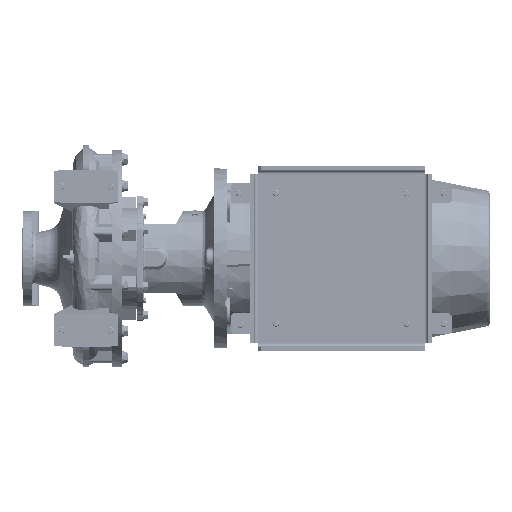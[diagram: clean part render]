
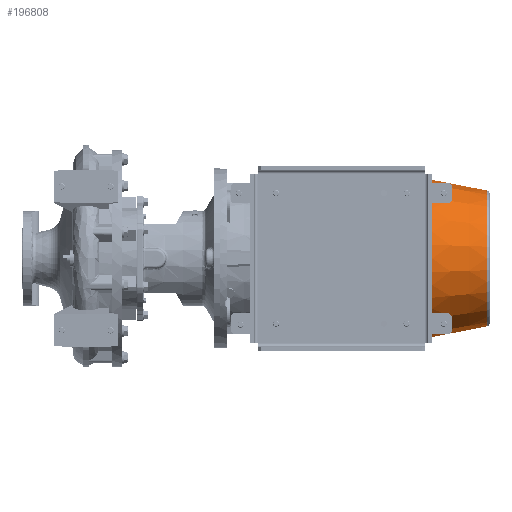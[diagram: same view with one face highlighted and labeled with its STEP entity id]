
A CAD part, front view. The second image highlights one B-rep face of the part: STEP entity #196808.
In plain terms, the highlighted conical face has half-angle 11 degrees and reference radius 132.258 mm.
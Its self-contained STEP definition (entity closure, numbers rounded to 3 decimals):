
#3906 = CIRCLE ( 'NONE', #115912, 152.816 ) ;
#4612 = CARTESIAN_POINT ( 'NONE',  ( 132.258, 0., -282.676 ) ) ;
#7229 = CARTESIAN_POINT ( 'NONE',  ( 0., 0., -176.915 ) ) ;
#13254 = DIRECTION ( 'NONE',  ( 0., 0., 1. ) ) ;
#18429 = ORIENTED_EDGE ( 'NONE', *, *, #105347, .F. ) ;
#28652 = DIRECTION ( 'NONE',  ( 0.191, 0., 0.982 ) ) ;
#39484 = CARTESIAN_POINT ( 'NONE',  ( 152.816, 0., -176.915 ) ) ;
#42831 = CIRCLE ( 'NONE', #177950, 132.258 ) ;
#43462 = EDGE_CURVE ( 'NONE', #228067, #151090, #3906, .T. ) ;
#45573 = CARTESIAN_POINT ( 'NONE',  ( 132.258, 0., -282.676 ) ) ;
#47815 = ORIENTED_EDGE ( 'NONE', *, *, #43462, .F. ) ;
#55962 = DIRECTION ( 'NONE',  ( 0., 0., 1. ) ) ;
#56533 = CARTESIAN_POINT ( 'NONE',  ( -132.258, 0., -282.676 ) ) ;
#68841 = FACE_OUTER_BOUND ( 'NONE', #160591, .T. ) ;
#77156 = ORIENTED_EDGE ( 'NONE', *, *, #170797, .T. ) ;
#88381 = CONICAL_SURFACE ( 'NONE', #115279, 132.258, 0.192 ) ;
#88660 = DIRECTION ( 'NONE',  ( 1., 0., 0. ) ) ;
#103914 = DIRECTION ( 'NONE',  ( 1., 0., 0. ) ) ;
#105347 = EDGE_CURVE ( 'NONE', #219815, #228067, #198275, .T. ) ;
#106405 = DIRECTION ( 'NONE',  ( -0.191, 0., 0.982 ) ) ;
#110234 = VECTOR ( 'NONE', #28652, 1000. ) ;
#115279 = AXIS2_PLACEMENT_3D ( 'NONE', #142595, #13254, #103914 ) ;
#115912 = AXIS2_PLACEMENT_3D ( 'NONE', #7229, #225955, #117269 ) ;
#117269 = DIRECTION ( 'NONE',  ( 1., 0., 0. ) ) ;
#134029 = VECTOR ( 'NONE', #106405, 1000. ) ;
#136324 = LINE ( 'NONE', #45573, #110234 ) ;
#141532 = ORIENTED_EDGE ( 'NONE', *, *, #159894, .T. ) ;
#142595 = CARTESIAN_POINT ( 'NONE',  ( 0., 0., -282.676 ) ) ;
#151090 = VERTEX_POINT ( 'NONE', #39484 ) ;
#159894 = EDGE_CURVE ( 'NONE', #225161, #151090, #136324, .T. ) ;
#160591 = EDGE_LOOP ( 'NONE', ( #18429, #77156, #141532, #47815 ) ) ;
#166347 = CARTESIAN_POINT ( 'NONE',  ( -152.816, 0., -176.915 ) ) ;
#170797 = EDGE_CURVE ( 'NONE', #219815, #225161, #42831, .T. ) ;
#177950 = AXIS2_PLACEMENT_3D ( 'NONE', #221515, #55962, #88660 ) ;
#196808 = ADVANCED_FACE ( 'NONE', ( #68841 ), #88381, .T. ) ;
#198275 = LINE ( 'NONE', #217590, #134029 ) ;
#217590 = CARTESIAN_POINT ( 'NONE',  ( -132.258, 0., -282.676 ) ) ;
#219815 = VERTEX_POINT ( 'NONE', #56533 ) ;
#221515 = CARTESIAN_POINT ( 'NONE',  ( 0., 0., -282.676 ) ) ;
#225161 = VERTEX_POINT ( 'NONE', #4612 ) ;
#225955 = DIRECTION ( 'NONE',  ( 0., 0., 1. ) ) ;
#228067 = VERTEX_POINT ( 'NONE', #166347 ) ;
